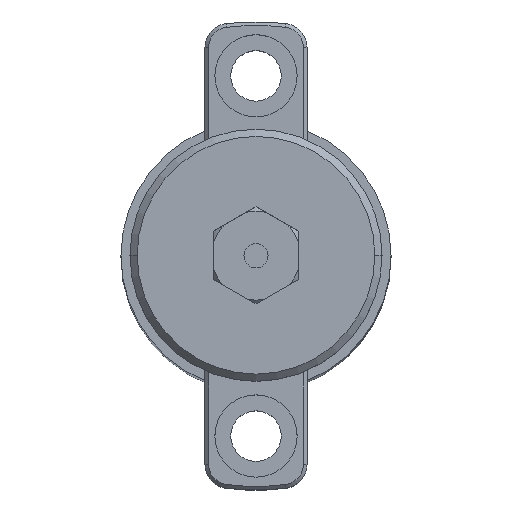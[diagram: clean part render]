
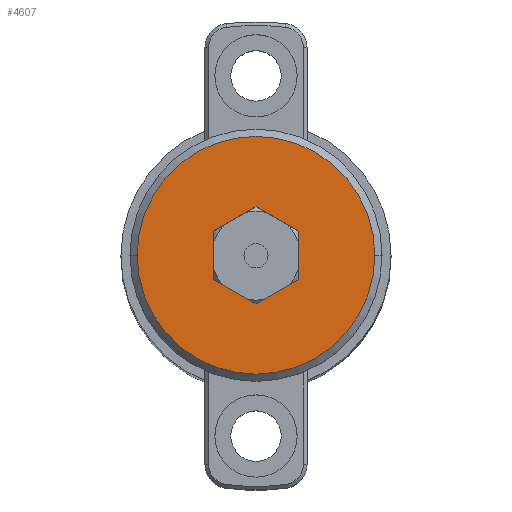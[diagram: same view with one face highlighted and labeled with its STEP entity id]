
A CAD part, top view. The second image highlights one B-rep face of the part: STEP entity #4607.
In plain terms, the highlighted planar face has unit normal (0, 0, 1).
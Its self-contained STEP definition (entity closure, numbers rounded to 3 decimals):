
#150 = DIRECTION ( 'NONE',  ( 0., 0., 1. ) ) ;
#287 = EDGE_CURVE ( 'NONE', #11017, #12711, #3651, .T. ) ;
#323 = CARTESIAN_POINT ( 'NONE',  ( 7., 4.041, 0. ) ) ;
#757 = CIRCLE ( 'NONE', #1000, 19.8 ) ;
#920 = CARTESIAN_POINT ( 'NONE',  ( -7., -4.041, 0. ) ) ;
#938 = LINE ( 'NONE', #14068, #7450 ) ;
#1000 = AXIS2_PLACEMENT_3D ( 'NONE', #7481, #150, #8709 ) ;
#1012 = VERTEX_POINT ( 'NONE', #5466 ) ;
#1318 = EDGE_LOOP ( 'NONE', ( #2098, #2411 ) ) ;
#1382 = ORIENTED_EDGE ( 'NONE', *, *, #7987, .F. ) ;
#1474 = CIRCLE ( 'NONE', #15033, 19.8 ) ;
#1718 = AXIS2_PLACEMENT_3D ( 'NONE', #10476, #14149, #6820 ) ;
#1887 = EDGE_CURVE ( 'NONE', #1012, #2473, #757, .T. ) ;
#2098 = ORIENTED_EDGE ( 'NONE', *, *, #3178, .T. ) ;
#2134 = EDGE_CURVE ( 'NONE', #15274, #7202, #938, .T. ) ;
#2246 = ORIENTED_EDGE ( 'NONE', *, *, #11695, .F. ) ;
#2411 = ORIENTED_EDGE ( 'NONE', *, *, #1887, .T. ) ;
#2414 = CARTESIAN_POINT ( 'NONE',  ( 7., -4.041, 0. ) ) ;
#2473 = VERTEX_POINT ( 'NONE', #3836 ) ;
#2915 = DIRECTION ( 'NONE',  ( 0., -1., 0. ) ) ;
#3018 = ORIENTED_EDGE ( 'NONE', *, *, #2134, .F. ) ;
#3178 = EDGE_CURVE ( 'NONE', #2473, #1012, #1474, .T. ) ;
#3261 = VECTOR ( 'NONE', #11022, 1000. ) ;
#3489 = CARTESIAN_POINT ( 'NONE',  ( 7., -4.041, 0. ) ) ;
#3492 = VECTOR ( 'NONE', #9490, 1000. ) ;
#3614 = LINE ( 'NONE', #11491, #9747 ) ;
#3651 = LINE ( 'NONE', #2414, #3261 ) ;
#3836 = CARTESIAN_POINT ( 'NONE',  ( -19.8, 0., 0. ) ) ;
#4199 = DIRECTION ( 'NONE',  ( 0.866, 0.5, 0. ) ) ;
#4433 = FACE_BOUND ( 'NONE', #14022, .T. ) ;
#4607 = ADVANCED_FACE ( 'NONE', ( #4433, #13809 ), #7989, .F. ) ;
#5416 = VECTOR ( 'NONE', #11882, 1000. ) ;
#5466 = CARTESIAN_POINT ( 'NONE',  ( 19.8, 0., 0. ) ) ;
#5623 = CARTESIAN_POINT ( 'NONE',  ( 0., 0., 0. ) ) ;
#5947 = CARTESIAN_POINT ( 'NONE',  ( -7., -4.041, 0. ) ) ;
#6242 = ORIENTED_EDGE ( 'NONE', *, *, #10677, .F. ) ;
#6547 = ORIENTED_EDGE ( 'NONE', *, *, #287, .F. ) ;
#6820 = DIRECTION ( 'NONE',  ( -1., 0., 0. ) ) ;
#6839 = DIRECTION ( 'NONE',  ( 1., 0., 0. ) ) ;
#7202 = VERTEX_POINT ( 'NONE', #11382 ) ;
#7450 = VECTOR ( 'NONE', #9138, 1000. ) ;
#7481 = CARTESIAN_POINT ( 'NONE',  ( 0., 0., 0. ) ) ;
#7552 = VERTEX_POINT ( 'NONE', #5947 ) ;
#7918 = CARTESIAN_POINT ( 'NONE',  ( 0., -8.083, 0. ) ) ;
#7987 = EDGE_CURVE ( 'NONE', #7202, #7552, #3614, .T. ) ;
#7989 = PLANE ( 'NONE',  #1718 ) ;
#8709 = DIRECTION ( 'NONE',  ( 1., 0., 0. ) ) ;
#9138 = DIRECTION ( 'NONE',  ( -0.866, -0.5, 0. ) ) ;
#9378 = CARTESIAN_POINT ( 'NONE',  ( 0., 8.083, 0. ) ) ;
#9490 = DIRECTION ( 'NONE',  ( 0.866, -0.5, 0. ) ) ;
#9672 = ORIENTED_EDGE ( 'NONE', *, *, #14343, .F. ) ;
#9747 = VECTOR ( 'NONE', #2915, 1000. ) ;
#10476 = CARTESIAN_POINT ( 'NONE',  ( 0., 19.8, 0. ) ) ;
#10677 = EDGE_CURVE ( 'NONE', #14916, #11017, #15387, .T. ) ;
#11017 = VERTEX_POINT ( 'NONE', #3489 ) ;
#11022 = DIRECTION ( 'NONE',  ( 0., 1., 0. ) ) ;
#11382 = CARTESIAN_POINT ( 'NONE',  ( -7., 4.041, 0. ) ) ;
#11491 = CARTESIAN_POINT ( 'NONE',  ( -7., 4.041, 0. ) ) ;
#11527 = CARTESIAN_POINT ( 'NONE',  ( 0., -8.083, 0. ) ) ;
#11695 = EDGE_CURVE ( 'NONE', #12711, #15274, #15554, .T. ) ;
#11882 = DIRECTION ( 'NONE',  ( -0.866, 0.5, 0. ) ) ;
#12711 = VERTEX_POINT ( 'NONE', #323 ) ;
#13270 = LINE ( 'NONE', #920, #3492 ) ;
#13809 = FACE_OUTER_BOUND ( 'NONE', #1318, .T. ) ;
#14022 = EDGE_LOOP ( 'NONE', ( #3018, #2246, #6547, #6242, #9672, #1382 ) ) ;
#14068 = CARTESIAN_POINT ( 'NONE',  ( 0., 8.083, 0. ) ) ;
#14149 = DIRECTION ( 'NONE',  ( 0., 0., -1. ) ) ;
#14176 = DIRECTION ( 'NONE',  ( 0., 0., 1. ) ) ;
#14343 = EDGE_CURVE ( 'NONE', #7552, #14916, #13270, .T. ) ;
#14916 = VERTEX_POINT ( 'NONE', #7918 ) ;
#14994 = VECTOR ( 'NONE', #4199, 1000. ) ;
#15033 = AXIS2_PLACEMENT_3D ( 'NONE', #5623, #14176, #6839 ) ;
#15274 = VERTEX_POINT ( 'NONE', #9378 ) ;
#15387 = LINE ( 'NONE', #11527, #14994 ) ;
#15517 = CARTESIAN_POINT ( 'NONE',  ( 7., 4.041, 0. ) ) ;
#15554 = LINE ( 'NONE', #15517, #5416 ) ;
